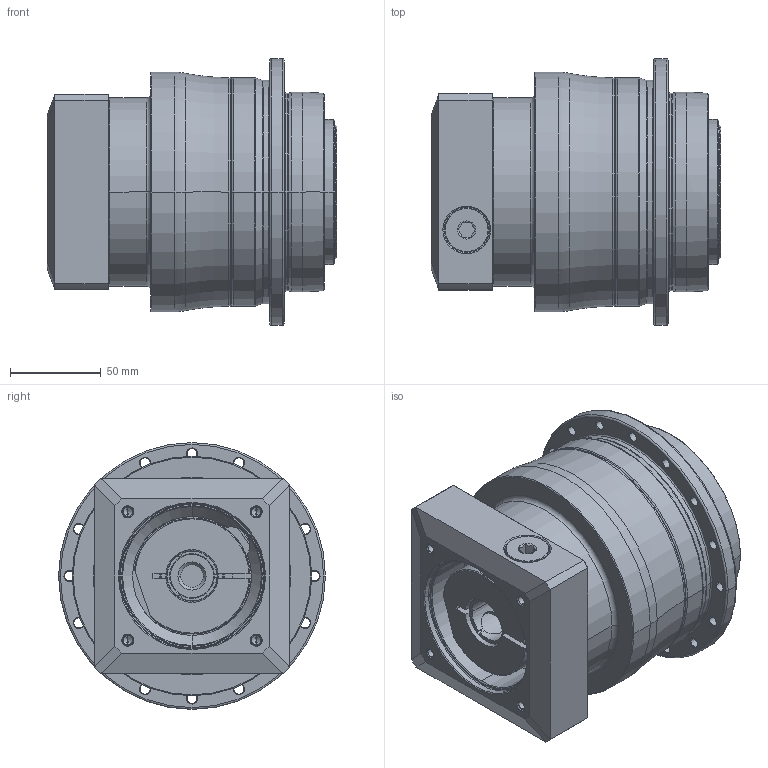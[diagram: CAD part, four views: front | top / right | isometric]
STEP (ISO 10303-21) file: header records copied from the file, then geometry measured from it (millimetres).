
FILE_DESCRIPTION((''),'2;1');
FILE_NAME('AP110_2ST_24-P0409510201_ASM','2018-05-28T',('d01226'),(''),'PRO/ENGINEER BY PARAMETRIC TECHNOLOGY CORPORATION, 2008410','PRO/ENGINEER BY PARAMETRIC TECHNOLOGY CORPORATION, 2008410','');
FILE_SCHEMA(('CONFIG_CONTROL_DESIGN'));
Length unit declared in the file: millimetre
Products named in the file (9): P0278401003; P0359401103; P1317410201; P0503500010; P0912353001; P1211400001; P0409510201; 21711418017; AP110_2ST_24-P0409510201_ASM
Assembly tree (8 placements, depth 2):
  AP110_2ST_24-P0409510201_ASM
    P0278401003
    P0359401103
    P1317410201
    P0503500010
    P0912353001
    P1211400001
    P0409510201
    21711418017
Bounding box: 159.5 x 147 x 147 mm (x, y, z)
Volume: 1493698.4 mm3; surface area: 223753.4 mm2
Topology: 9 solids, 30 shells, 586 faces, 1362 edges, 834 vertices
Faces by surface type: cylinder 241, cone 161, plane 100, torus 70, bspline 14
Entity records: 22011 total; most frequent: CARTESIAN_POINT 8003, DIRECTION 3209, ORIENTED_EDGE 2606, AXIS2_PLACEMENT_3D 1371, EDGE_CURVE 1346, VERTEX_POINT 834, CIRCLE 772, EDGE_LOOP 716
